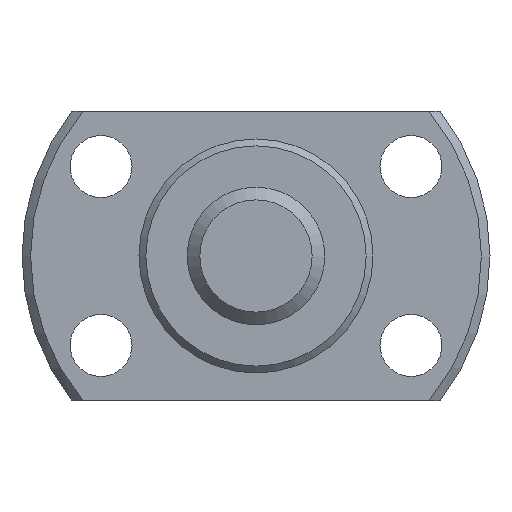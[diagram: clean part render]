
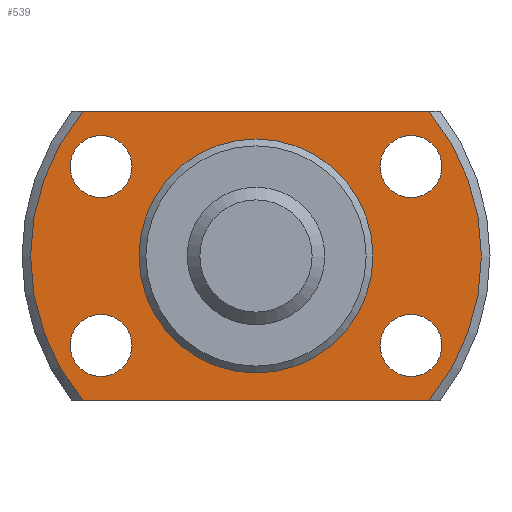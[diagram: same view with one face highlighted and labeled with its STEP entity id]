
A CAD part, left-side view. The second image highlights one B-rep face of the part: STEP entity #539.
In plain terms, the highlighted planar face has unit normal (-1, 0, 0) as drawn and (1, 0, 0) by its records, which use the part's own axes.
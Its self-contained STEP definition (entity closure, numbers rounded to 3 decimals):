
#73=CIRCLE('',#608,16.375);
#88=CIRCLE('',#632,8.3);
#89=CIRCLE('',#634,16.375);
#90=CIRCLE('',#635,2.25);
#91=CIRCLE('',#636,2.25);
#92=CIRCLE('',#637,2.25);
#93=CIRCLE('',#638,2.25);
#176=ORIENTED_EDGE('',*,*,#270,.T.);
#177=ORIENTED_EDGE('',*,*,#248,.T.);
#178=ORIENTED_EDGE('',*,*,#271,.T.);
#179=ORIENTED_EDGE('',*,*,#272,.T.);
#180=ORIENTED_EDGE('',*,*,#273,.F.);
#181=ORIENTED_EDGE('',*,*,#274,.F.);
#182=ORIENTED_EDGE('',*,*,#275,.F.);
#183=ORIENTED_EDGE('',*,*,#276,.F.);
#184=ORIENTED_EDGE('',*,*,#269,.F.);
#248=EDGE_CURVE('',#303,#305,#73,.T.);
#269=EDGE_CURVE('',#324,#324,#88,.T.);
#270=EDGE_CURVE('',#325,#303,#347,.T.);
#271=EDGE_CURVE('',#305,#326,#348,.T.);
#272=EDGE_CURVE('',#326,#325,#89,.T.);
#273=EDGE_CURVE('',#327,#327,#90,.T.);
#274=EDGE_CURVE('',#328,#328,#91,.T.);
#275=EDGE_CURVE('',#329,#329,#92,.T.);
#276=EDGE_CURVE('',#330,#330,#93,.T.);
#303=VERTEX_POINT('',#886);
#305=VERTEX_POINT('',#893);
#324=VERTEX_POINT('',#949);
#325=VERTEX_POINT('',#952);
#326=VERTEX_POINT('',#954);
#327=VERTEX_POINT('',#957);
#328=VERTEX_POINT('',#959);
#329=VERTEX_POINT('',#961);
#330=VERTEX_POINT('',#963);
#347=LINE('',#951,#365);
#348=LINE('',#953,#366);
#365=VECTOR('',#784,1000.);
#366=VECTOR('',#785,1000.);
#414=EDGE_LOOP('',(#176,#177,#178,#179));
#415=EDGE_LOOP('',(#180));
#416=EDGE_LOOP('',(#181));
#417=EDGE_LOOP('',(#182));
#418=EDGE_LOOP('',(#183));
#419=EDGE_LOOP('',(#184));
#478=FACE_BOUND('',#414,.T.);
#479=FACE_BOUND('',#415,.T.);
#480=FACE_BOUND('',#416,.T.);
#481=FACE_BOUND('',#417,.T.);
#482=FACE_BOUND('',#418,.T.);
#483=FACE_BOUND('',#419,.T.);
#510=PLANE('',#633);
#539=ADVANCED_FACE('',(#478,#479,#480,#481,#482,#483),#510,.T.);
#608=AXIS2_PLACEMENT_3D('',#894,#728,#729);
#632=AXIS2_PLACEMENT_3D('',#948,#780,#781);
#633=AXIS2_PLACEMENT_3D('',#950,#782,#783);
#634=AXIS2_PLACEMENT_3D('',#955,#786,#787);
#635=AXIS2_PLACEMENT_3D('',#956,#788,#789);
#636=AXIS2_PLACEMENT_3D('',#958,#790,#791);
#637=AXIS2_PLACEMENT_3D('',#960,#792,#793);
#638=AXIS2_PLACEMENT_3D('',#962,#794,#795);
#728=DIRECTION('',(1.,0.,0.));
#729=DIRECTION('',(0.,0.,-1.));
#780=DIRECTION('',(1.,0.,0.));
#781=DIRECTION('',(0.,0.,-1.));
#782=DIRECTION('',(1.,0.,0.));
#783=DIRECTION('',(0.,0.,-1.));
#784=DIRECTION('',(0.,-1.,0.));
#785=DIRECTION('',(0.,1.,0.));
#786=DIRECTION('',(1.,0.,0.));
#787=DIRECTION('',(0.,0.,-1.));
#788=DIRECTION('',(1.,0.,0.));
#789=DIRECTION('',(0.,0.,-1.));
#790=DIRECTION('',(1.,0.,0.));
#791=DIRECTION('',(0.,0.,-1.));
#792=DIRECTION('',(1.,0.,0.));
#793=DIRECTION('',(0.,0.,-1.));
#794=DIRECTION('',(1.,0.,0.));
#795=DIRECTION('',(0.,0.,-1.));
#886=CARTESIAN_POINT('',(5.,-12.565,10.5));
#893=CARTESIAN_POINT('',(5.,-12.565,-10.5));
#894=CARTESIAN_POINT('',(5.,0.,0.));
#948=CARTESIAN_POINT('',(5.,0.,0.));
#949=CARTESIAN_POINT('',(5.,0.,-8.3));
#950=CARTESIAN_POINT('',(5.,8.3,0.));
#951=CARTESIAN_POINT('',(5.,17.,10.5));
#952=CARTESIAN_POINT('',(5.,12.565,10.5));
#953=CARTESIAN_POINT('',(5.,-17.,-10.5));
#954=CARTESIAN_POINT('',(5.,12.565,-10.5));
#955=CARTESIAN_POINT('',(5.,0.,0.));
#956=CARTESIAN_POINT('',(5.,11.258,6.5));
#957=CARTESIAN_POINT('',(5.,11.258,4.25));
#958=CARTESIAN_POINT('',(5.,-11.258,6.5));
#959=CARTESIAN_POINT('',(5.,-11.258,4.25));
#960=CARTESIAN_POINT('',(5.,-11.258,-6.5));
#961=CARTESIAN_POINT('',(5.,-11.258,-8.75));
#962=CARTESIAN_POINT('',(5.,11.258,-6.5));
#963=CARTESIAN_POINT('',(5.,11.258,-8.75));
